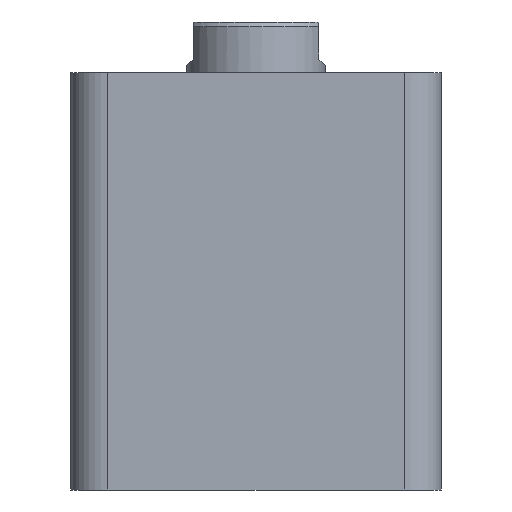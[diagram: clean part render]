
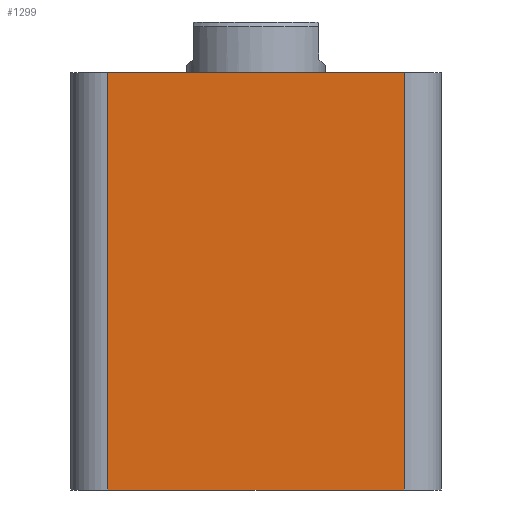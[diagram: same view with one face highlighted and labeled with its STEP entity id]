
A CAD part, front view. The second image highlights one B-rep face of the part: STEP entity #1299.
In plain terms, the highlighted planar face has unit normal (0, -1, 0).
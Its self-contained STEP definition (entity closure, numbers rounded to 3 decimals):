
#112 = AXIS2_PLACEMENT_3D ( 'NONE', #1055, #1028, #1026 ) ;
#281 = EDGE_CURVE ( 'NONE', #1683, #797, #1572, .T. ) ;
#284 = EDGE_CURVE ( 'NONE', #1697, #1683, #1567, .T. ) ;
#287 = EDGE_CURVE ( 'NONE', #775, #1697, #1564, .T. ) ;
#290 = EDGE_CURVE ( 'NONE', #775, #797, #1559, .T. ) ;
#475 = FACE_OUTER_BOUND ( 'NONE', #1828, .T. ) ;
#639 = ORIENTED_EDGE ( 'NONE', *, *, #290, .F. ) ;
#645 = ORIENTED_EDGE ( 'NONE', *, *, #287, .T. ) ;
#658 = ORIENTED_EDGE ( 'NONE', *, *, #284, .T. ) ;
#683 = ORIENTED_EDGE ( 'NONE', *, *, #281, .T. ) ;
#775 = VERTEX_POINT ( 'NONE', #2393 ) ;
#797 = VERTEX_POINT ( 'NONE', #2322 ) ;
#1026 = DIRECTION ( 'NONE',  ( 0., 0., 1. ) ) ;
#1028 = DIRECTION ( 'NONE',  ( 0., 1., 0. ) ) ;
#1035 = PLANE ( 'NONE',  #112 ) ;
#1055 = CARTESIAN_POINT ( 'NONE',  ( -40., -40., 90. ) ) ;
#1299 = ADVANCED_FACE ( 'NONE', ( #475 ), #1035, .F. ) ;
#1557 = VECTOR ( 'NONE', #2424, 1000. ) ;
#1559 = LINE ( 'NONE', #2423, #1557 ) ;
#1561 = VECTOR ( 'NONE', #2435, 1000. ) ;
#1564 = LINE ( 'NONE', #2431, #1561 ) ;
#1565 = VECTOR ( 'NONE', #2448, 1000. ) ;
#1567 = LINE ( 'NONE', #2449, #1565 ) ;
#1569 = VECTOR ( 'NONE', #2451, 1000. ) ;
#1572 = LINE ( 'NONE', #2452, #1569 ) ;
#1683 = VERTEX_POINT ( 'NONE', #1989 ) ;
#1697 = VERTEX_POINT ( 'NONE', #1947 ) ;
#1828 = EDGE_LOOP ( 'NONE', ( #639, #645, #658, #683 ) ) ;
#1947 = CARTESIAN_POINT ( 'NONE',  ( -32., -40., 0. ) ) ;
#1989 = CARTESIAN_POINT ( 'NONE',  ( 32., -40., 0. ) ) ;
#2322 = CARTESIAN_POINT ( 'NONE',  ( 32., -40., 90. ) ) ;
#2393 = CARTESIAN_POINT ( 'NONE',  ( -32., -40., 90. ) ) ;
#2423 = CARTESIAN_POINT ( 'NONE',  ( -40., -40., 90. ) ) ;
#2424 = DIRECTION ( 'NONE',  ( 1., 0., 0. ) ) ;
#2431 = CARTESIAN_POINT ( 'NONE',  ( -32., -40., 90. ) ) ;
#2435 = DIRECTION ( 'NONE',  ( 0., 0., -1. ) ) ;
#2448 = DIRECTION ( 'NONE',  ( 1., 0., 0. ) ) ;
#2449 = CARTESIAN_POINT ( 'NONE',  ( -40., -40., 0. ) ) ;
#2451 = DIRECTION ( 'NONE',  ( 0., 0., 1. ) ) ;
#2452 = CARTESIAN_POINT ( 'NONE',  ( 32., -40., 90. ) ) ;
